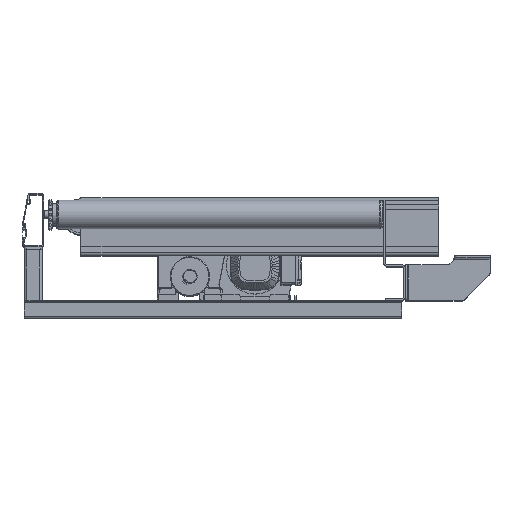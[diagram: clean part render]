
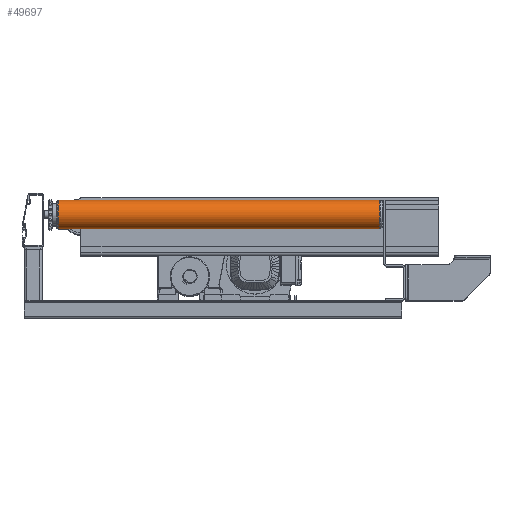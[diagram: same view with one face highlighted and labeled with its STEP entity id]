
A CAD part, top view. The second image highlights one B-rep face of the part: STEP entity #49697.
In plain terms, the highlighted cylindrical face has radius 40 mm (diameter 80 mm), a full revolution.
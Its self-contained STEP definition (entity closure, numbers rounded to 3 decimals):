
#2518=CYLINDRICAL_SURFACE('',#53111,40.);
#4096=FACE_OUTER_BOUND('',#6957,.T.);
#6957=EDGE_LOOP('',(#35456,#35457,#35458,#35459));
#10283=LINE('',#75945,#14007);
#14007=VECTOR('',#60516,40.);
#17413=CIRCLE('',#53110,40.);
#17414=CIRCLE('',#53112,40.);
#20544=VERTEX_POINT('',#75939);
#20545=VERTEX_POINT('',#75943);
#26207=EDGE_CURVE('',#20544,#20544,#17413,.T.);
#26209=EDGE_CURVE('',#20545,#20545,#17414,.T.);
#26210=EDGE_CURVE('',#20545,#20544,#10283,.T.);
#35456=ORIENTED_EDGE('',*,*,#26209,.F.);
#35457=ORIENTED_EDGE('',*,*,#26210,.T.);
#35458=ORIENTED_EDGE('',*,*,#26207,.T.);
#35459=ORIENTED_EDGE('',*,*,#26210,.F.);
#49697=ADVANCED_FACE('',(#4096),#2518,.T.);
#53110=AXIS2_PLACEMENT_3D('',#75940,#60509,#60510);
#53111=AXIS2_PLACEMENT_3D('',#75942,#60512,#60513);
#53112=AXIS2_PLACEMENT_3D('',#75944,#60514,#60515);
#60509=DIRECTION('center_axis',(-1.,0.,0.));
#60510=DIRECTION('ref_axis',(0.,-1.,0.));
#60512=DIRECTION('center_axis',(-1.,0.,0.));
#60513=DIRECTION('ref_axis',(0.,-1.,0.));
#60514=DIRECTION('center_axis',(-1.,0.,0.));
#60515=DIRECTION('ref_axis',(0.,-1.,0.));
#60516=DIRECTION('',(1.,0.,0.));
#75939=CARTESIAN_POINT('',(464.,130.,600.));
#75940=CARTESIAN_POINT('Origin',(464.,90.,600.));
#75942=CARTESIAN_POINT('Origin',(-214.,90.,600.));
#75943=CARTESIAN_POINT('',(-435.,130.,600.));
#75944=CARTESIAN_POINT('Origin',(-435.,90.,600.));
#75945=CARTESIAN_POINT('',(-214.,130.,600.));
